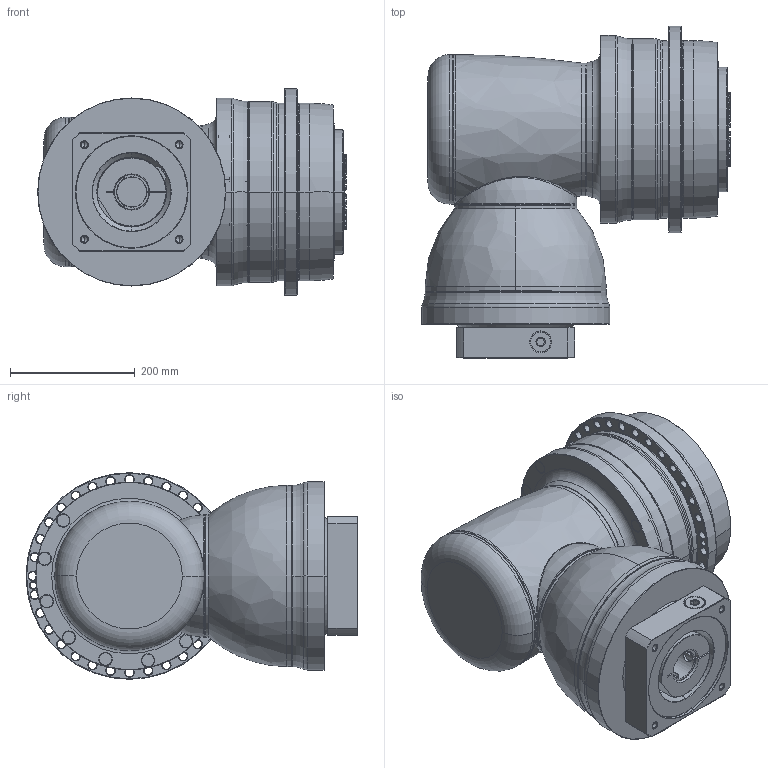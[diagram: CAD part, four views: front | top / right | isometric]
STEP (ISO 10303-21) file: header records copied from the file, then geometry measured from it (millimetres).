
FILE_DESCRIPTION((''),'2;1');
FILE_NAME('APCK285_2ST_SBG_48-P0409B10201_ASM','2018-05-21T',('d01226'),(''),'PRO/ENGINEER BY PARAMETRIC TECHNOLOGY CORPORATION, 2008410','PRO/ENGINEER BY PARAMETRIC TECHNOLOGY CORPORATION, 2008410','');
FILE_SCHEMA(('CONFIG_CONTROL_DESIGN'));
Length unit declared in the file: millimetre
Products named in the file (13): P0278801003; P03598G0103; P1211800001; P1802810001; P1018800002; P1365800001; P1007801001; P1318810301; P0409B10201; P0503B00016; P0912853001; 21711426021; APCK285_2ST_SBG_48-P0409B10201_ASM
Assembly tree (12 placements, depth 2):
  APCK285_2ST_SBG_48-P0409B10201_ASM
    P0278801003
    P03598G0103
    P1211800001
    P1802810001
    P1018800002
    P1365800001
    P1007801001
    P1318810301
    P0409B10201
    P0503B00016
    P0912853001
    21711426021
Bounding box: 495.6 x 533 x 332 mm (x, y, z)
Volume: 39028724.5 mm3; surface area: 1963236.8 mm2
Topology: 13 solids, 25 shells, 956 faces, 2283 edges, 1411 vertices
Faces by surface type: cone 304, cylinder 301, plane 184, torus 136, bspline 30, sphere 1
Entity records: 35273 total; most frequent: CARTESIAN_POINT 12428, DIRECTION 5129, ORIENTED_EDGE 4488, EDGE_CURVE 2269, AXIS2_PLACEMENT_3D 2257, VERTEX_POINT 1411, CIRCLE 1294, EDGE_LOOP 1112
